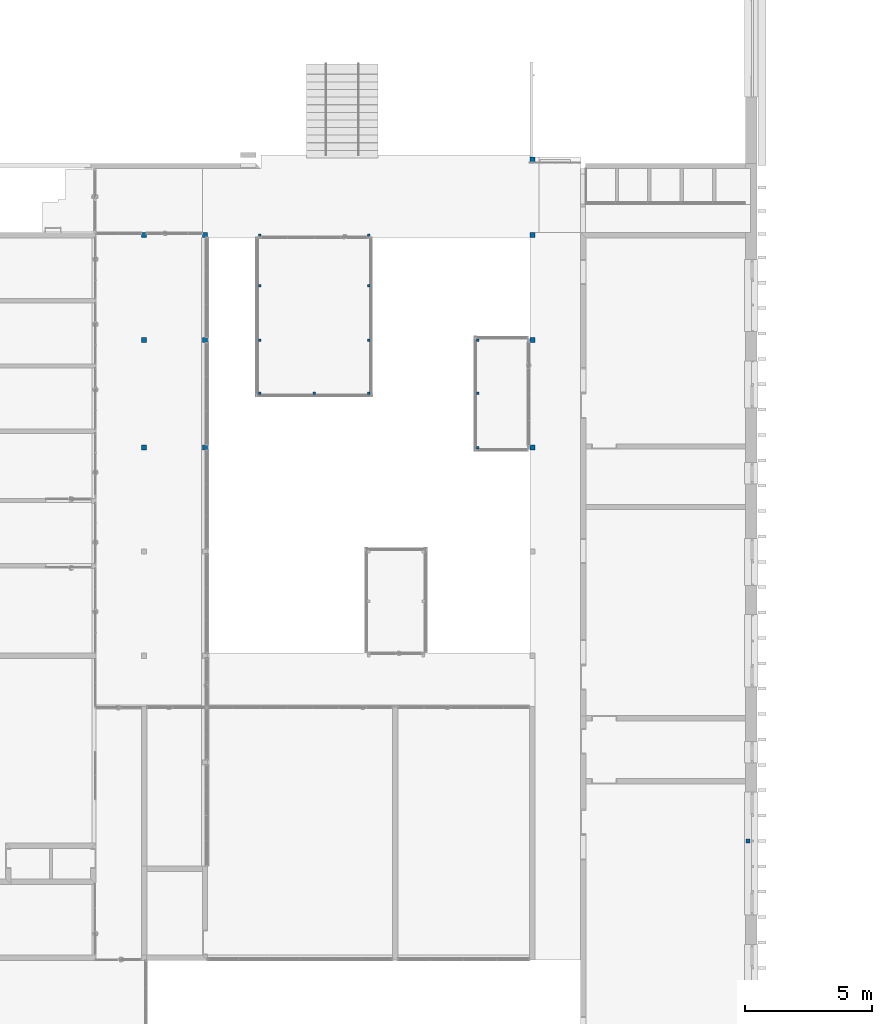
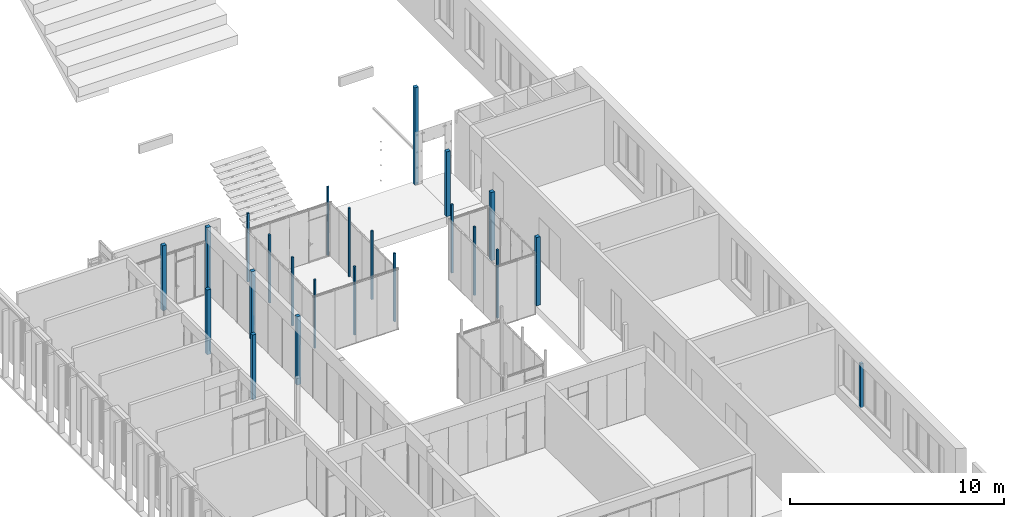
# One storey, part 2 of 387: 23 columns.
"""IFC2X3 building model written with IfcOpenShell, lengths in millimetres."""

from ifc_helpers import new_model, entity, si_unit, converted_unit, derived_unit, money_unit, direction, frame, origin_with_axes, origin_2d_with_axis, place, context, subcontext, project, spatial, rectangle, extrude, material, type_object, element, save


model = new_model("IFC2X3")

# Units and contexts
model_context = context("Model", 3, precision=0.01, world=origin_with_axes(), true_north=direction((0.0, 1.0)))
body_context = subcontext(model_context, "Body", "Model", "MODEL_VIEW")
ifc_project = project(units=[si_unit("LENGTHUNIT", "METRE", prefix="MILLI"), si_unit("AREAUNIT", "SQUARE_METRE"), si_unit("VOLUMEUNIT", "CUBIC_METRE"), converted_unit("PLANEANGLEUNIT", "DEGREE", entity("IfcPlaneAngleMeasure", 0.0174532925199), si_unit("PLANEANGLEUNIT", "RADIAN"), dimensions=[0, 0, 0, 0, 0, 0, 0]), si_unit("SOLIDANGLEUNIT", "STERADIAN"), money_unit("EUR"), converted_unit("TIMEUNIT", "Year", entity("IfcTimeMeasure", 31556926.0), si_unit("TIMEUNIT", "SECOND"), dimensions=[0, 0, 1, 0, 0, 0, 0]), si_unit("MASSUNIT", "GRAM", prefix="KILO"), si_unit("THERMODYNAMICTEMPERATUREUNIT", "DEGREE_CELSIUS"), si_unit("LUMINOUSINTENSITYUNIT", "LUMEN"), si_unit("ENERGYUNIT", "JOULE", prefix="MEGA"), derived_unit("THERMALCONDUCTANCEUNIT", [(si_unit("POWERUNIT", "WATT"), 1), (si_unit("LENGTHUNIT", "METRE"), -1), (si_unit("THERMODYNAMICTEMPERATUREUNIT", "KELVIN"), -1)]), derived_unit("SPECIFICHEATCAPACITYUNIT", [(si_unit("ENERGYUNIT", "JOULE"), 1), (si_unit("MASSUNIT", "GRAM", prefix="KILO"), -1), (si_unit("THERMODYNAMICTEMPERATUREUNIT", "KELVIN"), -1)]), derived_unit("MASSDENSITYUNIT", [(si_unit("MASSUNIT", "GRAM", prefix="KILO"), 1), (si_unit("VOLUMEUNIT", "CUBIC_METRE"), -1)])], contexts=[model_context])

# Site, building, storey
site_placement = place(None, origin_with_axes())
site = spatial("IfcSite", under=ifc_project, at=site_placement, Name="Puškini 31, Narva", CompositionType="ELEMENT")
building_placement = place(site_placement, origin_with_axes())
building = spatial("IfcBuilding", under=site, at=building_placement, Name="Narva Riigigümnaasium", CompositionType="ELEMENT")
storey_placement = place(building_placement, frame((0.0, 0.0, 2640.0), z_axis=(0.0, 0.0, 1.0), x_axis=(1.0, 0.0, 0.0)))
storey = spatial("IfcBuildingStorey", under=building, at=storey_placement, Name="2.korrus +2.64", CompositionType="ELEMENT", Elevation=2640.0)

# Columns
ifc_material = material(Name="ET-06_Teras - Konstruktsioon")
column_type_1 = type_object("IfcColumnType", Name="ET-06_Teras - Konstruktsioon 100 x 100", PredefinedType="COLUMN")
for number, where, z_axis, x_axis, name in (
    (1, (34849.9999987, 185845.000005, 0.0), (0.0, 0.0, 1.0), (0.0, 1.0, 0.0), "Post"),
    (2, (39149.9999987, 185845.000005, 0.0), (0.0, 0.0, 1.0), (0.0, 1.0, 0.0), "Post"),
    (3, (39149.9999987, 192079.973479, 0.0), (0.0, 0.0, 1.0), (0.0, 1.0, 0.0), "Post"),
    (4, (34849.9999987, 192079.973479, 0.0), (0.0, 0.0, 1.0), (0.0, 1.0, 0.0), "Post"),
    (5, (43449.9999987, 187935.000005, 0.0), (0.0, 0.0, 1.0), (0.0, 1.0, 0.0), "Post"),
    (6, (43449.9999987, 183700.000005, 0.0), (0.0, 0.0, 1.0), (0.0, 1.0, 0.0), "Post"),
    (7, (36999.9999987, 185845.000005, 0.0), (0.0, 0.0, 1.0), (0.0, 1.0, 0.0), "Post"),
    (8, (39149.9999987, 187935.000005, 0.0), (0.0, 0.0, 1.0), (0.0, 1.0, 0.0), "Post"),
    (9, (39149.9999987, 190080.000005, 0.0), (0.0, 0.0, 1.0), (0.0, 1.0, 0.0), "Post"),
    (10, (34849.9999987, 187935.000005, 0.0), (0.0, 0.0, 1.0), (0.0, 1.0, 0.0), "Post"),
    (11, (34849.9999987, 190080.000005, 0.0), (0.0, 0.0, 1.0), (0.0, 1.0, 0.0), "Post"),
    (12, (43449.9999987, 185845.000005, 0.0), (0.0, 0.0, 1.0), (0.0, 1.0, 0.0), "Post"),
):
    element("IfcColumn", number, at=place(storey_placement, frame(where, z_axis=z_axis, x_axis=x_axis)), inside=storey, type_object=column_type_1, material=ifc_material, Name=name, ObjectType="COLUMN", context=body_context, shape_type="SweptSolid", body=[
        extrude(rectangle(XDim=100.0, YDim=100.0, at=origin_2d_with_axis()), origin_with_axes(), (0.0, 0.0, 1.0), 3895.0),
    ])
column_type_2 = type_object("IfcColumnType", Name="ET-06_Teras - Konstruktsioon 150 x 150", PredefinedType="COLUMN")
column_1_placement = place(storey_placement, frame((54100.0000018, 168200.0, 600.0), z_axis=(0.0, 0.0, 1.0), x_axis=(0.0, 1.0, 0.0)))
element("IfcColumn", 13, at=column_1_placement, inside=storey, type_object=column_type_2, material=ifc_material, Name="Post", ObjectType="COLUMN", context=body_context, shape_type="SweptSolid", body=[
    extrude(rectangle(XDim=150.0, YDim=150.0, at=origin_2d_with_axis()), origin_with_axes(), (0.0, 0.0, 1.0), 2500.0),
])
column_type_3 = type_object("IfcColumnType", Name="ET-06_Teras - Konstruktsioon 200 x 200", PredefinedType="COLUMN")
for number, where, z_axis, x_axis, name in (
    (14, (32700.0000014, 187935.000029, 0.0), (0.0, 0.0, 1.0), (0.0, 1.0, 0.0), "Post"),
    (15, (32700.0000014, 192080.0, 0.0), (0.0, 0.0, 1.0), (0.0, 1.0, 0.0), "Post"),
    (16, (32699.9999991, 183700.000005, 0.0), (0.0, 0.0, 1.0), (0.0, 1.0, 0.0), "Post"),
):
    element("IfcColumn", number, at=place(storey_placement, frame(where, z_axis=z_axis, x_axis=x_axis)), inside=storey, type_object=column_type_3, material=ifc_material, Name=name, ObjectType="COLUMN", context=body_context, shape_type="SweptSolid", body=[
        extrude(rectangle(XDim=200.0, YDim=200.0, at=origin_2d_with_axis()), origin_with_axes(), (0.0, 0.0, 1.0), 3895.0),
    ])
column_2_placement = place(storey_placement, frame((45599.9999993, 195050.0, 0.0), z_axis=(0.0, 0.0, 1.0), x_axis=(0.0, 1.0, 0.0)))
element("IfcColumn", 17, at=column_2_placement, inside=storey, type_object=column_type_3, material=ifc_material, Name="Post", ObjectType="COLUMN", context=body_context, shape_type="SweptSolid", body=[
    extrude(rectangle(XDim=200.0, YDim=200.0, at=origin_2d_with_axis()), origin_with_axes(), (0.0, 0.0, 1.0), 5540.0),
])
for number, where, z_axis, x_axis, name in (
    (18, (45599.9999983, 187935.000029, 0.0), (0.0, 0.0, 1.0), (0.0, 1.0, 0.0), "Post"),
    (19, (45599.9999961, 183700.000005, 0.0), (0.0, 0.0, 1.0), (0.0, 1.0, 0.0), "Post"),
):
    element("IfcColumn", number, at=place(storey_placement, frame(where, z_axis=z_axis, x_axis=x_axis)), inside=storey, type_object=column_type_3, material=ifc_material, Name=name, ObjectType="COLUMN", context=body_context, shape_type="SweptSolid", body=[
        extrude(rectangle(XDim=200.0, YDim=200.0, at=origin_2d_with_axis()), origin_with_axes(), (0.0, 0.0, 1.0), 3895.0),
    ])
for number, where, z_axis, x_axis, name in (
    (20, (45599.9999984, 192080.026526, 0.0), (0.0, 0.0, 1.0), (0.0, 1.0, 0.0), "Post"),
    (21, (30299.9999965, 187935.000029, 0.0), (0.0, 0.0, 1.0), (0.0, 1.0, 0.0), "Post"),
    (22, (30299.9999988, 192080.0, 0.0), (0.0, 0.0, 1.0), (0.0, 1.0, 0.0), "Post"),
    (23, (30299.9999965, 183700.000005, 0.0), (0.0, 0.0, 1.0), (0.0, 1.0, 0.0), "Post"),
):
    element("IfcColumn", number, at=place(storey_placement, frame(where, z_axis=z_axis, x_axis=x_axis)), inside=storey, type_object=column_type_3, material=ifc_material, Name=name, ObjectType="COLUMN", context=body_context, shape_type="SweptSolid", body=[
        extrude(rectangle(XDim=200.0, YDim=200.0, at=origin_2d_with_axis()), origin_with_axes(), (0.0, 0.0, 1.0), 3700.0),
    ])

save(model, "model.ifc")
